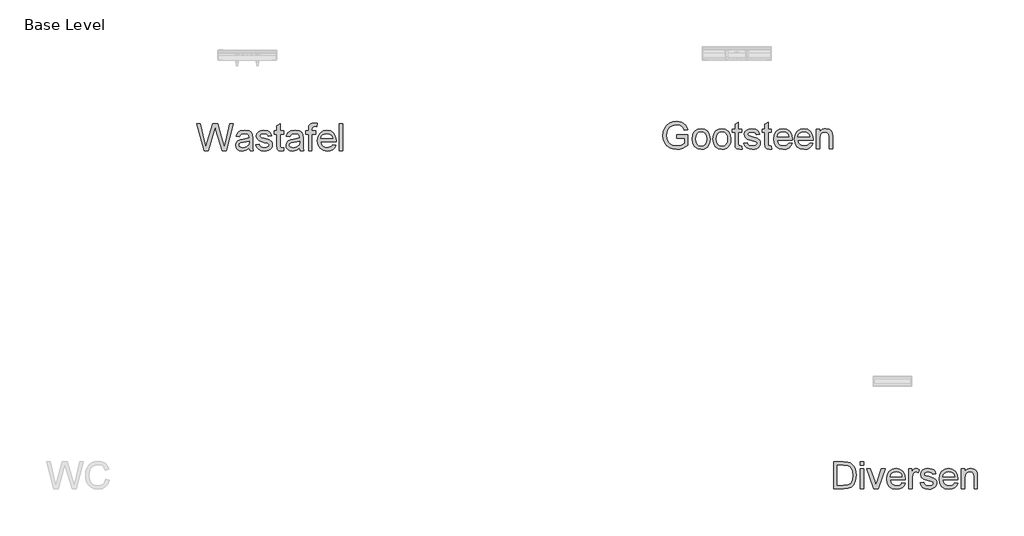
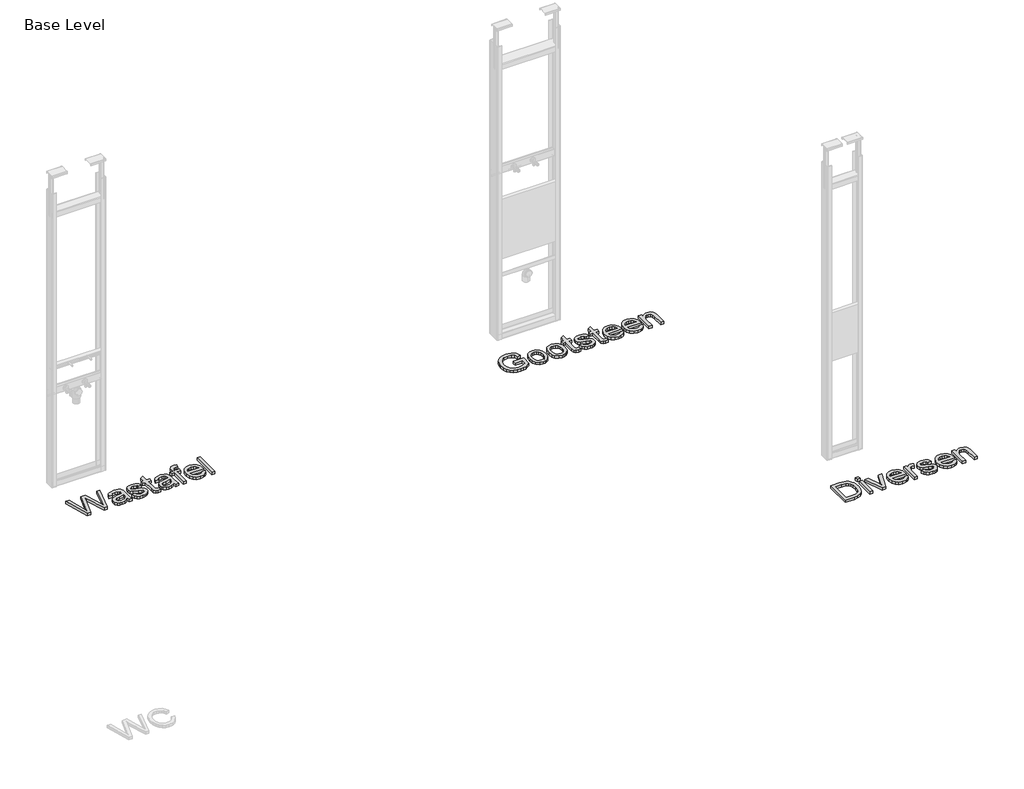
# One storey, part 3 of 3: 3 proxies.
"""IFC4 building model written with IfcOpenShell, lengths in millimetres."""

import ifcopenshell
import ifcopenshell.guid

model = None  # the IFC model being written
_history = None  # IfcOwnerHistory: only IFC2X3 demands one
_inside = {}  # id of a spatial element -> (the spatial element, [elements in it])
_under = {}  # id of a project, library or spatial element -> (it, [spatial elements below it])
_declared = {}  # id of a project -> (the project, [libraries it declares])
_typed = {}  # id of a type object -> (the type object, [elements of that type])
_made_of = {}  # id of a material, layer set ... -> (it, [elements and type objects made of it])


def new_model(schema):
    """Start an empty IFC model of exactly this schema.

    Asked for "IFC4X3", IfcOpenShell would pick the latest addendum, in which some entities
    have other attributes; the version numbers below select the first issue.
    IFC2X3 requires an IfcOwnerHistory on every rooted entity: one is made here for all.
    """
    global model, _history
    if schema == "IFC4X3":
        model = ifcopenshell.file(schema_version=(4, 3, 0, 0))
    else:
        model = ifcopenshell.file(schema=schema)
    _inside.clear()
    _under.clear()
    _declared.clear()
    _typed.clear()
    _made_of.clear()
    _history = None
    if model.schema == "IFC2X3":
        org = make("IfcOrganization", Name="unknown")
        user = make(
            "IfcPersonAndOrganization",
            ThePerson=make("IfcPerson", FamilyName="unknown"),
            TheOrganization=org,
        )
        app = make(
            "IfcApplication",
            ApplicationDeveloper=org,
            Version="unknown",
            ApplicationFullName="unknown",
            ApplicationIdentifier="unknown",
        )
        _history = make(
            "IfcOwnerHistory",
            OwningUser=user,
            OwningApplication=app,
            ChangeAction="ADDED",
            CreationDate=0,
        )
    return model


def make(cls, **values):
    """One entity of the class cls with the attributes given. An attribute that is None is left unset."""
    return model.create_entity(
        cls, **{name: value for name, value in values.items() if value is not None}
    )


def rooted(cls, **values):
    """An entity with a GlobalId (a new one), such as an element, a storey or a relation."""
    return make(cls, GlobalId=ifcopenshell.guid.new(), OwnerHistory=_history, **values)


def si_unit(unit_type, name, prefix=None):
    """IfcSIUnit, for example si_unit("LENGTHUNIT", "METRE", prefix="MILLI")."""
    return make("IfcSIUnit", UnitType=unit_type, Prefix=prefix, Name=name)


def assignment(units):
    """IfcUnitAssignment: the units of a project."""
    return None if units is None else make("IfcUnitAssignment", Units=units)


def point(xyz):
    """IfcCartesianPoint."""
    return None if xyz is None else make("IfcCartesianPoint", Coordinates=xyz)


def direction(xyz):
    """IfcDirection."""
    return None if xyz is None else make("IfcDirection", DirectionRatios=xyz)


def frame(location, z_axis=None, x_axis=None):
    """IfcAxis2Placement3D, a coordinate frame: its origin and axes. An axis left out is left unset."""
    return make(
        "IfcAxis2Placement3D",
        Location=point(location),
        Axis=direction(z_axis),
        RefDirection=direction(x_axis),
    )


def origin():
    """The frame at (0, 0, 0) with its axes left unset."""
    return frame((0.0, 0.0, 0.0))


def origin_with_axes():
    """The frame at (0, 0, 0) with the z axis (0, 0, 1) and the x axis (1, 0, 0) written out."""
    return frame((0.0, 0.0, 0.0), z_axis=(0.0, 0.0, 1.0), x_axis=(1.0, 0.0, 0.0))


def place(relative_to, where):
    """IfcLocalPlacement: puts the frame where relative to a parent placement (None: the world)."""
    return make(
        "IfcLocalPlacement", PlacementRelTo=relative_to, RelativePlacement=where
    )


def context(
    kind, dimensions, precision=None, world=None, true_north=None, identifier=None
):
    """IfcGeometricRepresentationContext, for example the 3D "Model" context."""
    return make(
        "IfcGeometricRepresentationContext",
        ContextIdentifier=identifier,
        ContextType=kind,
        CoordinateSpaceDimension=dimensions,
        Precision=precision,
        WorldCoordinateSystem=world,
        TrueNorth=true_north,
    )


def project(units=None, contexts=None):
    """IfcProject with its units and contexts."""
    return rooted(
        "IfcProject",
        Name="project",
        RepresentationContexts=contexts,
        UnitsInContext=assignment(units),
    )


def spatial(cls, under=None, at=None, **own):
    """A site, building, storey or space (cls), placed at a placement, below another one or the project."""
    s = rooted(cls, ObjectPlacement=at, **own)
    if under is not None:
        _under.setdefault(under.id(), (under, []))[1].append(s)
    return s


def polyline(points):
    """IfcPolyline through the points."""
    return make("IfcPolyline", Points=[point(p) for p in points])


def outline(outer, holes=None, kind="AREA"):
    """IfcArbitraryClosedProfileDef: a profile drawn as a closed curve; with holes, ...WithVoids."""
    if holes is None:
        return make("IfcArbitraryClosedProfileDef", ProfileType=kind, OuterCurve=outer)
    return make(
        "IfcArbitraryProfileDefWithVoids",
        ProfileType=kind,
        OuterCurve=outer,
        InnerCurves=holes,
    )


def extrude(swept, where, along, depth):
    """IfcExtrudedAreaSolid: the profile swept, set in the frame where, extruded along a direction by depth."""
    return make(
        "IfcExtrudedAreaSolid",
        SweptArea=swept,
        Position=where,
        ExtrudedDirection=direction(along),
        Depth=depth,
    )


def shape(context_of_items, identifier, shape_type, items):
    """IfcShapeRepresentation: the items that make up one representation, for example the "Body"."""
    return make(
        "IfcShapeRepresentation",
        ContextOfItems=context_of_items,
        RepresentationIdentifier=identifier,
        RepresentationType=shape_type,
        Items=items,
    )


def made_of(thing, what):
    """Note that an element or type object is made of a material, layer set ...; save() writes the relation."""
    if what is not None:
        _made_of.setdefault(what.id(), (what, []))[1].append(thing)
    return thing


def element(
    cls,
    number,
    at=None,
    inside=None,
    cuts=None,
    type_object=None,
    material=None,
    context=None,
    identifier="Body",
    shape_type=None,
    held_by="IfcProductDefinitionShape",
    body=None,
    shapes=None,
    **own,
):
    """One element of the class cls, such as IfcWall. Its Tag is "e" and its number.

    at: its placement. inside: the storey or other place that contains it. cuts: it is an
    opening in that element (IfcRelVoidsElement). A single representation is given by context,
    identifier, shape_type and body (its items); several are given by shapes. held_by: the class
    of the entity that holds the representations. save() writes the other relations.
    """
    e = rooted(cls, Tag="e%d" % number, ObjectPlacement=at, **own)
    if body is not None:
        shapes = [shape(context, identifier, shape_type, body)]
    if shapes is not None:
        e.Representation = make(held_by, Representations=shapes)
    if inside is not None:
        _inside.setdefault(inside.id(), (inside, []))[1].append(e)
    if cuts is not None:
        rooted(
            "IfcRelVoidsElement", RelatingBuildingElement=cuts, RelatedOpeningElement=e
        )
    if type_object is not None:
        _typed.setdefault(type_object.id(), (type_object, []))[1].append(e)
    return made_of(e, material)


def aggregate(whole, parts):
    """IfcRelAggregates: a whole, such as a stair, and the parts it consists of."""
    return rooted("IfcRelAggregates", RelatingObject=whole, RelatedObjects=parts)


def save(model, path):
    """Write the relations noted so far, then the file.

    IfcRelAggregates (storeys below a building ...), IfcRelContainedInSpatialStructure (elements
    in a storey), IfcRelDefinesByType, IfcRelAssociatesMaterial and IfcRelDeclares: one each for
    every whole, place, type object, material and project.
    """
    for whole, parts in _under.values():
        aggregate(whole, parts)
    for where, things in _inside.values():
        rooted(
            "IfcRelContainedInSpatialStructure",
            RelatedElements=things,
            RelatingStructure=where,
        )
    for kind, things in _typed.values():
        rooted("IfcRelDefinesByType", RelatedObjects=things, RelatingType=kind)
    for what, things in _made_of.values():
        rooted("IfcRelAssociatesMaterial", RelatedObjects=things, RelatingMaterial=what)
    for by, libraries in _declared.values():
        rooted("IfcRelDeclares", RelatingContext=by, RelatedDefinitions=libraries)
    model.write(path)


model = new_model("IFC4")

# Units and contexts
model_context = context("Model", 3, world=origin())
ifc_project = project(units=[si_unit("LENGTHUNIT", "METRE", prefix="MILLI")], contexts=[model_context])

# Site, building, storey
site = spatial("IfcSite", under=ifc_project)
building = spatial("IfcBuilding", under=site)
storey = spatial("IfcBuildingStorey", under=building, Name="Base Level", Elevation=0.0)

# Proxies
placement = place(None, origin())
element("IfcBuildingElementProxy", 1, Name="medium", ObjectType="medium", at=placement, inside=storey, context=model_context, shape_type="SweptSolid", body=[
    extrude(outline(polyline([(2536.4944037, 4936.4338067), (2482.7924806, 5133.3568836), (2508.177096, 5133.3568836), (2539.3309421, 5003.9338067), (2548.9463268, 4963.9818836), (2559.2347883, 4999.3184221), (2598.2732498, 5133.3568836), (2634.8597883, 5133.3568836), (2663.2251729, 5036.1934221), (2684.3309421, 4963.9818836), (2693.6578652, 5002.7799606), (2725.1001729, 5133.3568836), (2750.4847883, 5133.3568836), (2696.7347883, 4936.4338067), (2670.4367114, 4936.4338067), (2623.2251729, 5088.3568836), (2616.6386345, 5109.5588067), (2609.2347883, 5084.0299606), (2566.2059421, 4936.4338067), (2536.4944037, 4936.4338067)])), origin_with_axes(), (0.0, 0.0, 1.0), 20.0),
    extrude(outline(polyline([(2864.3309421, 4954.8953452), (2840.4607498, 4938.2126529), (2814.0905575, 4933.3568836), (2793.5196441, 4936.2775567), (2778.3453652, 4945.0395759), (2768.9883941, 4958.3448644), (2765.8694037, 4974.8953452), (2770.5809421, 4994.366499), (2782.9607498, 5008.5011144), (2800.1963268, 5016.5780375), (2821.4944037, 5020.2799606), (2864.1867114, 5028.741499), (2864.3309421, 5034.2222683), (2862.6362306, 5045.2078452), (2857.552096, 5052.3953452), (2846.1819037, 5057.7318836), (2830.3405575, 5059.5107298), (2805.4367114, 5054.7751529), (2798.4535383, 5048.2066433), (2793.5617114, 5037.9722683), (2768.9463268, 5041.0491913), (2779.5953652, 5065.0876529), (2788.6698845, 5073.1765952), (2801.0376729, 5079.1741913), (2833.5136345, 5084.1261144), (2863.3453652, 5079.7511144), (2880.1963268, 5068.7655375), (2887.7444037, 5052.0588067), (2888.9463268, 5030.5203452), (2888.9463268, 4999.8953452), (2890.1963268, 4957.1309221), (2895.1001729, 4936.4338067), (2870.4847883, 4936.4338067), (2864.3309421, 4954.8953452)]), holes=[polyline([(2864.3309421, 5004.1261144), (2824.6194037, 4996.5780375), (2803.4415191, 4992.5876529), (2793.8501729, 4986.0972683), (2790.4847883, 4976.6261144), (2792.317721, 4969.3064029), (2797.8165191, 4963.3088067), (2806.8609902, 4959.3064029), (2819.3309421, 4957.9722683), (2832.552096, 4959.444624), (2844.2347883, 4963.8616913), (2860.2924806, 4978.116499), (2864.1867114, 4997.1549606), (2864.3309421, 5004.1261144)])]), origin_with_axes(), (0.0, 0.0, 1.0), 20.0),
    extrude(outline(polyline([(2913.5617114, 4979.5107298), (2938.177096, 4982.5876529), (2942.0593075, 4972.0588067), (2949.5713268, 4964.3184221), (2960.7612306, 4959.5588067), (2975.677096, 4957.9722683), (2990.4126729, 4959.4265952), (3000.7732498, 4963.7895759), (3006.9030575, 4970.1116913), (3008.9463268, 4977.4434221), (3006.8910383, 4983.7174606), (3000.7251729, 4988.5011144), (2975.3886345, 4995.5203452), (2938.3213268, 5007.5636144), (2922.1434421, 5021.6261144), (2916.6386345, 5041.4818836), (2921.0617114, 5059.8232298), (2933.1290191, 5073.8376529), (2948.7780575, 5081.1213067), (2969.9559421, 5084.1261144), (2999.9078652, 5079.2943836), (3011.1097883, 5073.6092875), (3018.9463268, 5066.2174606), (3027.4078652, 5044.1261144), (3002.7924806, 5041.0491913), (2999.6855095, 5048.7955856), (2993.5376729, 5054.6309221), (2971.8790191, 5059.5107298), (2957.7444037, 5058.3448644), (2948.3213268, 5054.8472683), (2943.020846, 5049.7991913), (2941.2540191, 5043.9818836), (2944.1867114, 5036.8184221), (2953.3694037, 5031.3857298), (2974.5713268, 5026.1453452), (3010.7011345, 5014.5588067), (3027.4799806, 5001.4338067), (3032.0412787, 4991.7823644), (3033.5617114, 4980.0395759), (3031.7768556, 4967.9001529), (3026.4222883, 4956.4818836), (3017.7023364, 4946.6802009), (3005.8213268, 4939.3905375), (2991.4703652, 4934.8652971), (2975.3405575, 4933.3568836), (2950.520846, 4936.2655375), (2932.4078652, 4944.991499), (2920.3165191, 4959.4386144), (2913.5617114, 4979.5107298)])), origin_with_axes(), (0.0, 0.0, 1.0), 20.0),
    extrude(outline(polyline([(3113.5617114, 4956.9626529), (3116.6386345, 4935.7126529), (3098.2251729, 4933.3568836), (3077.6001729, 4937.4434221), (3067.3117114, 4948.1645759), (3064.3309421, 4976.0972683), (3064.3309421, 5056.4338067), (3045.8694037, 5056.4338067), (3045.8694037, 5081.0491913), (3064.3309421, 5081.0491913), (3064.3309421, 5116.1934221), (3088.9463268, 5130.6645759), (3088.9463268, 5081.0491913), (3113.5617114, 5081.0491913), (3113.5617114, 5056.4338067), (3088.9463268, 5056.4338067), (3088.9463268, 4976.8184221), (3090.2444037, 4964.1261144), (3094.4511345, 4959.6309221), (3102.8405575, 4957.9722683), (3113.5617114, 4956.9626529)])), origin_with_axes(), (0.0, 0.0, 1.0), 20.0),
    extrude(outline(polyline([(3230.4847883, 4954.8953452), (3206.614596, 4938.2126529), (3180.2444037, 4933.3568836), (3159.6734902, 4936.2775567), (3144.4992114, 4945.0395759), (3135.1422402, 4958.3448644), (3132.0232498, 4974.8953452), (3136.7347883, 4994.366499), (3149.114596, 5008.5011144), (3166.3501729, 5016.5780375), (3187.6482498, 5020.2799606), (3230.3405575, 5028.741499), (3230.4847883, 5034.2222683), (3228.7900768, 5045.2078452), (3223.7059421, 5052.3953452), (3212.3357498, 5057.7318836), (3196.4944037, 5059.5107298), (3171.5905575, 5054.7751529), (3164.6073845, 5048.2066433), (3159.7155575, 5037.9722683), (3135.1001729, 5041.0491913), (3145.7492114, 5065.0876529), (3154.8237306, 5073.1765952), (3167.1915191, 5079.1741913), (3199.6674806, 5084.1261144), (3229.4992114, 5079.7511144), (3246.3501729, 5068.7655375), (3253.8982498, 5052.0588067), (3255.1001729, 5030.5203452), (3255.1001729, 4999.8953452), (3256.3501729, 4957.1309221), (3261.2540191, 4936.4338067), (3236.6386345, 4936.4338067), (3230.4847883, 4954.8953452)]), holes=[polyline([(3230.4847883, 5004.1261144), (3190.7732498, 4996.5780375), (3169.5953652, 4992.5876529), (3160.0040191, 4986.0972683), (3156.6386345, 4976.6261144), (3158.4715671, 4969.3064029), (3163.9703652, 4963.3088067), (3173.0148364, 4959.3064029), (3185.4847883, 4957.9722683), (3198.7059421, 4959.444624), (3210.3886345, 4963.8616913), (3226.4463268, 4978.116499), (3230.3405575, 4997.1549606), (3230.4847883, 5004.1261144)])]), origin_with_axes(), (0.0, 0.0, 1.0), 20.0),
    extrude(outline(polyline([(3295.1001729, 4936.4338067), (3295.1001729, 5056.4338067), (3273.5617114, 5056.4338067), (3273.5617114, 5081.0491913), (3295.1001729, 5081.0491913), (3295.1001729, 5095.616499), (3297.6963268, 5116.1453452), (3310.2924806, 5130.8088067), (3320.989596, 5135.0275567), (3335.1001729, 5136.4338067), (3357.552096, 5133.741499), (3353.9463268, 5110.6645759), (3339.7636345, 5111.8184221), (3324.2588268, 5107.7318836), (3320.8513748, 5101.8785183), (3319.7155575, 5092.491499), (3319.7155575, 5081.0491913), (3347.4078652, 5081.0491913), (3347.4078652, 5056.4338067), (3319.7155575, 5056.4338067), (3319.7155575, 4936.4338067), (3295.1001729, 4936.4338067)])), origin_with_axes(), (0.0, 0.0, 1.0), 20.0),
    extrude(outline(polyline([(3470.1963268, 4979.5107298), (3494.3309421, 4976.4338067), (3485.6350287, 4958.2487106), (3471.7588268, 4944.6549606), (3453.0148364, 4936.1814029), (3429.7155575, 4933.3568836), (3400.833346, 4938.2306817), (3378.6097883, 4952.8520759), (3364.4391152, 4976.2715471), (3359.7155575, 5007.5395759), (3364.4871921, 5039.8592875), (3378.802096, 5064.0299606), (3400.7251729, 5079.1020759), (3428.3213268, 5084.1261144), (3455.0581056, 5079.1140952), (3476.4222883, 5064.0780375), (3490.4307018, 5039.9554413), (3495.1001729, 5007.6838067), (3494.9559421, 5001.0491913), (3384.3309421, 5001.0491913), (3388.5917595, 4982.6237106), (3398.489596, 4969.0780375), (3412.7744518, 4960.7487106), (3430.1963268, 4957.9722683), (3454.3309421, 4963.116499), (3463.2972883, 4969.7871721), (3470.1963268, 4979.5107298)]), holes=[polyline([(3384.3309421, 5025.6645759), (3470.4847883, 5025.6645759), (3467.1554614, 5038.6693836), (3460.6290191, 5047.9722683), (3446.2780575, 5056.6261144), (3428.2251729, 5059.5107298), (3411.6326248, 5057.2090471), (3397.9126729, 5050.303999), (3388.3754133, 5039.5407779), (3384.3309421, 5025.6645759)])]), origin_with_axes(), (0.0, 0.0, 1.0), 20.0),
    extrude(outline(polyline([(3519.7155575, 4936.4338067), (3519.7155575, 5133.3568836), (3544.3309421, 5133.3568836), (3544.3309421, 4936.4338067), (3519.7155575, 4936.4338067)])), origin_with_axes(), (0.0, 0.0, 1.0), 20.0),
])
element("IfcBuildingElementProxy", 2, Name="medium", ObjectType="medium", at=placement, inside=storey, context=model_context, shape_type="SweptSolid", body=[
    extrude(outline(polyline([(5969.3578605, 5025.5224142), (5969.3578605, 5050.1377988), (6049.3578605, 5050.1377988), (6049.3578605, 4976.5320296), (6029.9167547, 4963.010395), (6009.8626681, 4953.3108757), (5989.2436778, 4947.4695296), (5968.1078605, 4945.5224142), (5940.4936778, 4948.6173661), (5915.5357451, 4957.9022219), (5894.802572, 4973.0524623), (5879.8626681, 4993.743568), (5870.8302162, 5018.5632796), (5867.8193989, 5046.0993373), (5870.818197, 5073.8337123), (5879.8145912, 5099.6329911), (5894.4359855, 5121.2736161), (5914.3097835, 5136.5320296), (5938.5165143, 5145.5825104), (5966.1367066, 5148.5993373), (5986.4131489, 5146.8505392), (6004.646322, 5141.604145), (6020.0008893, 5133.2387604), (6031.6415143, 5122.1329911), (6040.2532931, 5107.7519815), (6046.521322, 5089.5608757), (6023.8290143, 5083.166645), (6012.6030528, 5105.931068), (5993.4203605, 5119.056068), (5965.7520912, 5123.9839527), (5934.2376681, 5118.6714527), (5912.7953605, 5104.729145), (5900.1270912, 5085.7627988), (5894.3578605, 5067.181068), (5892.4347835, 5047.1089527), (5894.7484855, 5023.5692892), (5901.6895912, 5004.2002988), (5913.0477643, 4989.1402027), (5928.6126681, 4978.5272219), (5946.8278124, 4972.2351546), (5966.1367066, 4970.1377988), (5983.1859855, 4971.7183277), (5999.8145912, 4976.4599142), (6024.7424758, 4989.9454911), (6024.7424758, 5025.5224142), (5969.3578605, 5025.5224142)])), origin_with_axes(), (0.0, 0.0, 1.0), 20.0),
    extrude(outline(polyline([(6080.1270912, 5020.9070296), (6085.4516105, 5055.774818), (6092.1072595, 5069.3234959), (6101.4251681, 5080.2820296), (6121.1607451, 5092.2892411), (6144.7905528, 5096.291645), (6170.6499278, 5091.4178469), (6191.3049758, 5076.7964527), (6204.8446393, 5053.5813084), (6209.3578605, 5022.9262604), (6207.3626681, 4998.0584719), (6201.3770912, 4979.1281834), (6191.5754085, 4964.9515007), (6178.1318989, 4954.3445296), (6162.1643508, 4947.727943), (6144.7905528, 4945.5224142), (6118.6186778, 4950.3781834), (6097.9876681, 4964.9454911), (6084.5922355, 4988.6474142), (6080.1270912, 5020.9070296)]), holes=[polyline([(6104.7424758, 5020.9551065), (6107.5910335, 4998.6774623), (6116.1367066, 4982.806068), (6128.9972835, 4973.3048661), (6144.7905528, 4970.1377988), (6160.5117066, 4973.322895), (6173.3482451, 4982.8781834), (6181.8939181, 4998.9599142), (6184.7424758, 5021.7243373), (6181.8758893, 5043.352943), (6173.2761297, 5059.0079911), (6160.4215624, 5068.509193), (6144.7905528, 5071.6762604), (6128.9972835, 5068.5212123), (6116.1367066, 5059.056068), (6107.5910335, 5043.2207315), (6104.7424758, 5020.9551065)])]), origin_with_axes(), (0.0, 0.0, 1.0), 20.0),
    extrude(outline(polyline([(6230.896322, 5020.9070296), (6236.2208412, 5055.774818), (6242.8764903, 5069.3234959), (6252.1943989, 5080.2820296), (6271.9299758, 5092.2892411), (6295.5597835, 5096.291645), (6321.4191585, 5091.4178469), (6342.0742066, 5076.7964527), (6355.6138701, 5053.5813084), (6360.1270912, 5022.9262604), (6358.1318989, 4998.0584719), (6352.146322, 4979.1281834), (6342.3446393, 4964.9515007), (6328.9011297, 4954.3445296), (6312.9335816, 4947.727943), (6295.5597835, 4945.5224142), (6269.3879085, 4950.3781834), (6248.7568989, 4964.9454911), (6235.3614662, 4988.6474142), (6230.896322, 5020.9070296)]), holes=[polyline([(6255.5117066, 5020.9551065), (6258.3602643, 4998.6774623), (6266.9059374, 4982.806068), (6279.7665143, 4973.3048661), (6295.5597835, 4970.1377988), (6311.2809374, 4973.322895), (6324.1174758, 4982.8781834), (6332.6631489, 4998.9599142), (6335.5117066, 5021.7243373), (6332.6451201, 5043.352943), (6324.0453605, 5059.0079911), (6311.1907931, 5068.509193), (6295.5597835, 5071.6762604), (6279.7665143, 5068.5212123), (6266.9059374, 5059.056068), (6258.3602643, 5043.2207315), (6255.5117066, 5020.9551065)])]), origin_with_axes(), (0.0, 0.0, 1.0), 20.0),
    extrude(outline(polyline([(6440.1270912, 4969.1281834), (6443.2040143, 4947.8781834), (6424.7905528, 4945.5224142), (6404.1655528, 4949.6089527), (6393.8770912, 4960.3301065), (6390.896322, 4988.2627988), (6390.896322, 5068.5993373), (6372.4347835, 5068.5993373), (6372.4347835, 5093.2147219), (6390.896322, 5093.2147219), (6390.896322, 5128.3589527), (6415.5117066, 5142.8301065), (6415.5117066, 5093.2147219), (6440.1270912, 5093.2147219), (6440.1270912, 5068.5993373), (6415.5117066, 5068.5993373), (6415.5117066, 4988.9839527), (6416.8097835, 4976.291645), (6421.0165143, 4971.7964527), (6429.4059374, 4970.1377988), (6440.1270912, 4969.1281834)])), origin_with_axes(), (0.0, 0.0, 1.0), 20.0),
    extrude(outline(polyline([(6455.5117066, 4991.6762604), (6480.1270912, 4994.7531834), (6484.0093028, 4984.2243373), (6491.521322, 4976.4839527), (6502.7112258, 4971.7243373), (6517.6270912, 4970.1377988), (6532.3626681, 4971.5921257), (6542.7232451, 4975.9551065), (6548.8530528, 4982.2772219), (6550.896322, 4989.6089527), (6548.8410335, 4995.8829911), (6542.6751681, 5000.666645), (6517.3386297, 5007.6858757), (6480.271322, 5019.729145), (6464.0934374, 5033.791645), (6458.5886297, 5053.6474142), (6463.0117066, 5071.9887604), (6475.0790143, 5086.0031834), (6490.7280528, 5093.2868373), (6511.9059374, 5096.291645), (6541.8578605, 5091.4599142), (6553.0597835, 5085.774818), (6560.896322, 5078.3829911), (6569.3578605, 5056.291645), (6544.7424758, 5053.2147219), (6541.6355047, 5060.9611161), (6535.4876681, 5066.7964527), (6513.8290143, 5071.6762604), (6499.6943989, 5070.510395), (6490.271322, 5067.0127988), (6484.9708412, 5061.9647219), (6483.2040143, 5056.1474142), (6486.1367066, 5048.9839527), (6495.3193989, 5043.5512604), (6516.521322, 5038.3108757), (6552.6511297, 5026.7243373), (6569.4299758, 5013.5993373), (6573.9912739, 5003.947895), (6575.5117066, 4992.2051065), (6573.7268508, 4980.0656834), (6568.3722835, 4968.6474142), (6559.6523316, 4958.8457315), (6547.771322, 4951.556068), (6533.4203605, 4947.0308277), (6517.2905528, 4945.5224142), (6492.4708412, 4948.431068), (6474.3578605, 4957.1570296), (6462.2665143, 4971.604145), (6455.5117066, 4991.6762604)])), origin_with_axes(), (0.0, 0.0, 1.0), 20.0),
    extrude(outline(polyline([(6655.5117066, 4969.1281834), (6658.5886297, 4947.8781834), (6640.1751681, 4945.5224142), (6619.5501681, 4949.6089527), (6609.2617066, 4960.3301065), (6606.2809374, 4988.2627988), (6606.2809374, 5068.5993373), (6587.8193989, 5068.5993373), (6587.8193989, 5093.2147219), (6606.2809374, 5093.2147219), (6606.2809374, 5128.3589527), (6630.896322, 5142.8301065), (6630.896322, 5093.2147219), (6655.5117066, 5093.2147219), (6655.5117066, 5068.5993373), (6630.896322, 5068.5993373), (6630.896322, 4988.9839527), (6632.1943989, 4976.291645), (6636.4011297, 4971.7964527), (6644.7905528, 4970.1377988), (6655.5117066, 4969.1281834)])), origin_with_axes(), (0.0, 0.0, 1.0), 20.0),
    extrude(outline(polyline([(6781.3770912, 4991.6762604), (6805.5117066, 4988.5993373), (6796.8157931, 4970.4142411), (6782.9395912, 4956.8204911), (6764.1956008, 4948.3469334), (6740.896322, 4945.5224142), (6712.0141105, 4950.3962123), (6689.7905528, 4965.0176065), (6675.6198797, 4988.4370777), (6670.896322, 5019.7051065), (6675.6679566, 5052.024818), (6689.9828605, 5076.1954911), (6711.9059374, 5091.2676065), (6739.5020912, 5096.291645), (6766.2388701, 5091.2796257), (6787.6030528, 5076.243568), (6801.6114662, 5052.1209719), (6806.2809374, 5019.8493373), (6806.1367066, 5013.2147219), (6695.5117066, 5013.2147219), (6699.7725239, 4994.7892411), (6709.6703605, 4981.243568), (6723.9552162, 4972.9142411), (6741.3770912, 4970.1377988), (6765.5117066, 4975.2820296), (6774.4780528, 4981.9527027), (6781.3770912, 4991.6762604)]), holes=[polyline([(6695.5117066, 5037.8301065), (6781.6655528, 5037.8301065), (6778.3362258, 5050.8349142), (6771.8097835, 5060.1377988), (6757.458822, 5068.791645), (6739.4059374, 5071.6762604), (6722.8133893, 5069.3745777), (6709.0934374, 5062.4695296), (6699.5561778, 5051.7063084), (6695.5117066, 5037.8301065)])]), origin_with_axes(), (0.0, 0.0, 1.0), 20.0),
    extrude(outline(polyline([(6932.146322, 4991.6762604), (6956.2809374, 4988.5993373), (6947.5850239, 4970.4142411), (6933.708822, 4956.8204911), (6914.9648316, 4948.3469334), (6891.6655528, 4945.5224142), (6862.7833412, 4950.3962123), (6840.5597835, 4965.0176065), (6826.3891105, 4988.4370777), (6821.6655528, 5019.7051065), (6826.4371874, 5052.024818), (6840.7520912, 5076.1954911), (6862.6751681, 5091.2676065), (6890.271322, 5096.291645), (6917.0081008, 5091.2796257), (6938.3722835, 5076.243568), (6952.380697, 5052.1209719), (6957.0501681, 5019.8493373), (6956.9059374, 5013.2147219), (6846.2809374, 5013.2147219), (6850.5417547, 4994.7892411), (6860.4395912, 4981.243568), (6874.724447, 4972.9142411), (6892.146322, 4970.1377988), (6916.2809374, 4975.2820296), (6925.2472835, 4981.9527027), (6932.146322, 4991.6762604)]), holes=[polyline([(6846.2809374, 5037.8301065), (6932.4347835, 5037.8301065), (6929.1054566, 5050.8349142), (6922.5790143, 5060.1377988), (6908.2280528, 5068.791645), (6890.1751681, 5071.6762604), (6873.5826201, 5069.3745777), (6859.8626681, 5062.4695296), (6850.3254085, 5051.7063084), (6846.2809374, 5037.8301065)])]), origin_with_axes(), (0.0, 0.0, 1.0), 20.0),
    extrude(outline(polyline([(6981.6655528, 4948.5993373), (6981.6655528, 5093.2147219), (7006.2809374, 5093.2147219), (7006.2809374, 5073.0224142), (7014.8326201, 5083.2027027), (7025.1030528, 5090.4743373), (7037.0922355, 5094.837318), (7050.8001681, 5096.291645), (7074.0453605, 5091.604145), (7089.9107451, 5079.2964527), (7097.2905528, 5061.1954911), (7098.5886297, 5037.3974142), (7098.5886297, 4948.5993373), (7073.9732451, 4948.5993373), (7073.9732451, 5034.0801065), (7071.1367066, 5055.8589527), (7061.1126681, 5067.3733757), (7044.2136297, 5071.6762604), (7029.7965624, 5069.260395), (7017.5068989, 5062.0127988), (7009.0874278, 5048.010395), (7006.2809374, 5025.3301065), (7006.2809374, 4948.5993373), (6981.6655528, 4948.5993373)])), origin_with_axes(), (0.0, 0.0, 1.0), 20.0),
])
element("IfcBuildingElementProxy", 3, Name="medium", ObjectType="medium", at=placement, inside=storey, context=model_context, shape_type="SweptSolid", body=[
    extrude(outline(polyline([(7107.3202551, 2481.7563586), (7107.3202551, 2678.6794355), (7175.2529474, 2678.6794355), (7210.3971782, 2675.842897), (7226.0942936, 2670.374147), (7239.3394859, 2661.7563586), (7252.9572743, 2646.7563586), (7262.6567936, 2628.1025124), (7268.462082, 2606.155397), (7270.3971782, 2581.2755893), (7265.1567936, 2541.5400124), (7251.6952551, 2512.8621278), (7233.7144859, 2495.0015509), (7210.180832, 2485.1217432), (7178.5221782, 2481.7563586), (7107.3202551, 2481.7563586)]), holes=[polyline([(7131.9356397, 2506.3717432), (7175.493332, 2506.3717432), (7207.1760243, 2509.9294355), (7225.4452551, 2519.9775124), (7233.9969378, 2530.6325605), (7240.4212166, 2544.4246278), (7245.7817936, 2581.6602047), (7243.1555916, 2608.4871278), (7235.2769859, 2628.2948201), (7223.6363609, 2641.9005893), (7209.7241013, 2650.1217432), (7174.8202551, 2654.0640509), (7131.9356397, 2654.0640509), (7131.9356397, 2506.3717432)])]), origin_with_axes(), (0.0, 0.0, 1.0), 20.0),
    extrude(outline(polyline([(7301.166409, 2481.7563586), (7301.166409, 2626.3717432), (7325.7817936, 2626.3717432), (7325.7817936, 2481.7563586), (7301.166409, 2481.7563586)])), origin_with_axes(), (0.0, 0.0, 1.0), 20.0),
    extrude(outline(polyline([(7301.166409, 2654.0640509), (7301.166409, 2678.6794355), (7325.7817936, 2678.6794355), (7325.7817936, 2654.0640509), (7301.166409, 2654.0640509)])), origin_with_axes(), (0.0, 0.0, 1.0), 20.0),
    extrude(outline(polyline([(7398.1856397, 2481.7563586), (7347.3202551, 2626.3717432), (7373.3779474, 2626.3717432), (7404.1952551, 2539.7371278), (7413.4741013, 2510.6025124), (7422.5606397, 2538.1025124), (7453.5702551, 2626.3717432), (7479.6279474, 2626.3717432), (7429.3875628, 2481.7563586), (7398.1856397, 2481.7563586)])), origin_with_axes(), (0.0, 0.0, 1.0), 20.0),
    extrude(outline(polyline([(7602.416409, 2524.8332816), (7626.5510243, 2521.7563586), (7617.8551109, 2503.5712624), (7603.978909, 2489.9775124), (7585.2349186, 2481.5039547), (7561.9356397, 2478.6794355), (7533.0534282, 2483.5532336), (7510.8298705, 2498.1746278), (7496.6591974, 2521.594099), (7491.9356397, 2552.8621278), (7496.7072743, 2585.1818393), (7511.0221782, 2609.3525124), (7532.9452551, 2624.4246278), (7560.541409, 2629.4486663), (7587.2781878, 2624.436647), (7608.6423705, 2609.4005893), (7622.650784, 2585.2779932), (7627.3202551, 2553.0063586), (7627.1760243, 2546.3717432), (7516.5510243, 2546.3717432), (7520.8118416, 2527.9462624), (7530.7096782, 2514.4005893), (7544.994534, 2506.0712624), (7562.416409, 2503.2948201), (7586.5510243, 2508.4390509), (7595.5173705, 2515.109724), (7602.416409, 2524.8332816)]), holes=[polyline([(7516.5510243, 2570.9871278), (7602.7048705, 2570.9871278), (7599.3755436, 2583.9919355), (7592.8491013, 2593.2948201), (7578.4981397, 2601.9486663), (7560.4452551, 2604.8332816), (7543.852707, 2602.531599), (7530.1327551, 2595.6265509), (7520.5954955, 2584.8633297), (7516.5510243, 2570.9871278)])]), origin_with_axes(), (0.0, 0.0, 1.0), 20.0),
    extrude(outline(polyline([(7651.9356397, 2481.7563586), (7651.9356397, 2626.3717432), (7673.4741013, 2626.3717432), (7673.4741013, 2604.9775124), (7688.7625628, 2624.6890509), (7704.1471782, 2629.4486663), (7716.4067936, 2627.5496278), (7728.8587166, 2621.8525124), (7720.6375628, 2599.7852047), (7703.3298705, 2604.8332816), (7689.4116013, 2599.9775124), (7680.541409, 2586.515974), (7676.5510243, 2557.765974), (7676.5510243, 2481.7563586), (7651.9356397, 2481.7563586)])), origin_with_axes(), (0.0, 0.0, 1.0), 20.0),
    extrude(outline(polyline([(7735.0125628, 2524.8332816), (7759.6279474, 2527.9102047), (7763.510159, 2517.3813586), (7771.0221782, 2509.640974), (7782.212082, 2504.8813586), (7797.1279474, 2503.2948201), (7811.8635243, 2504.749147), (7822.2241013, 2509.1121278), (7828.353909, 2515.4342432), (7830.3971782, 2522.765974), (7828.3418897, 2529.0400124), (7822.1760243, 2533.8236663), (7796.8394859, 2540.842897), (7759.7721782, 2552.8861663), (7743.5942936, 2566.9486663), (7738.0894859, 2586.8044355), (7742.5125628, 2605.1457816), (7754.5798705, 2619.1602047), (7770.228909, 2626.4438586), (7791.4067936, 2629.4486663), (7821.3587166, 2624.6169355), (7832.5606397, 2618.9318393), (7840.3971782, 2611.5400124), (7848.8587166, 2589.4486663), (7824.243332, 2586.3717432), (7821.1363609, 2594.1181374), (7814.9885243, 2599.953474), (7793.3298705, 2604.8332816), (7779.1952551, 2603.6674163), (7769.7721782, 2600.1698201), (7764.4716974, 2595.1217432), (7762.7048705, 2589.3044355), (7765.6375628, 2582.140974), (7774.8202551, 2576.7082816), (7796.0221782, 2571.467897), (7832.1519859, 2559.8813586), (7848.930832, 2546.7563586), (7853.4921301, 2537.1049163), (7855.0125628, 2525.3621278), (7853.227707, 2513.2227047), (7847.8731397, 2501.8044355), (7839.1531878, 2492.0027528), (7827.2721782, 2484.7130893), (7812.9212166, 2480.187849), (7796.791409, 2478.6794355), (7771.9716974, 2481.5880893), (7753.8587166, 2490.3140509), (7741.7673705, 2504.7611663), (7735.0125628, 2524.8332816)])), origin_with_axes(), (0.0, 0.0, 1.0), 20.0),
    extrude(outline(polyline([(7983.9548705, 2524.8332816), (8008.0894859, 2521.7563586), (7999.3935724, 2503.5712624), (7985.5173705, 2489.9775124), (7966.7733801, 2481.5039547), (7943.4741013, 2478.6794355), (7914.5918897, 2483.5532336), (7892.368332, 2498.1746278), (7878.197659, 2521.594099), (7873.4741013, 2552.8621278), (7878.2457359, 2585.1818393), (7892.5606397, 2609.3525124), (7914.4837166, 2624.4246278), (7942.0798705, 2629.4486663), (7968.8166493, 2624.436647), (7990.180832, 2609.4005893), (8004.1892455, 2585.2779932), (8008.8587166, 2553.0063586), (8008.7144859, 2546.3717432), (7898.0894859, 2546.3717432), (7902.3503032, 2527.9462624), (7912.2481397, 2514.4005893), (7926.5329955, 2506.0712624), (7943.9548705, 2503.2948201), (7968.0894859, 2508.4390509), (7977.055832, 2515.109724), (7983.9548705, 2524.8332816)]), holes=[polyline([(7898.0894859, 2570.9871278), (7984.243332, 2570.9871278), (7980.9140051, 2583.9919355), (7974.3875628, 2593.2948201), (7960.0366013, 2601.9486663), (7941.9837166, 2604.8332816), (7925.3911686, 2602.531599), (7911.6712166, 2595.6265509), (7902.133957, 2584.8633297), (7898.0894859, 2570.9871278)])]), origin_with_axes(), (0.0, 0.0, 1.0), 20.0),
    extrude(outline(polyline([(8033.4741013, 2481.7563586), (8033.4741013, 2626.3717432), (8058.0894859, 2626.3717432), (8058.0894859, 2606.1794355), (8066.6411686, 2616.359724), (8076.9116013, 2623.6313586), (8088.900784, 2627.9943393), (8102.6087166, 2629.4486663), (8125.853909, 2624.7611663), (8141.7192936, 2612.453474), (8149.0991013, 2594.3525124), (8150.3971782, 2570.5544355), (8150.3971782, 2481.7563586), (8125.7817936, 2481.7563586), (8125.7817936, 2567.2371278), (8122.9452551, 2589.015974), (8112.9212166, 2600.530397), (8096.0221782, 2604.8332816), (8081.6051109, 2602.4174163), (8069.3154474, 2595.1698201), (8060.8959763, 2581.1674163), (8058.0894859, 2558.4871278), (8058.0894859, 2481.7563586), (8033.4741013, 2481.7563586)])), origin_with_axes(), (0.0, 0.0, 1.0), 20.0),
])

save(model, "model.ifc")
